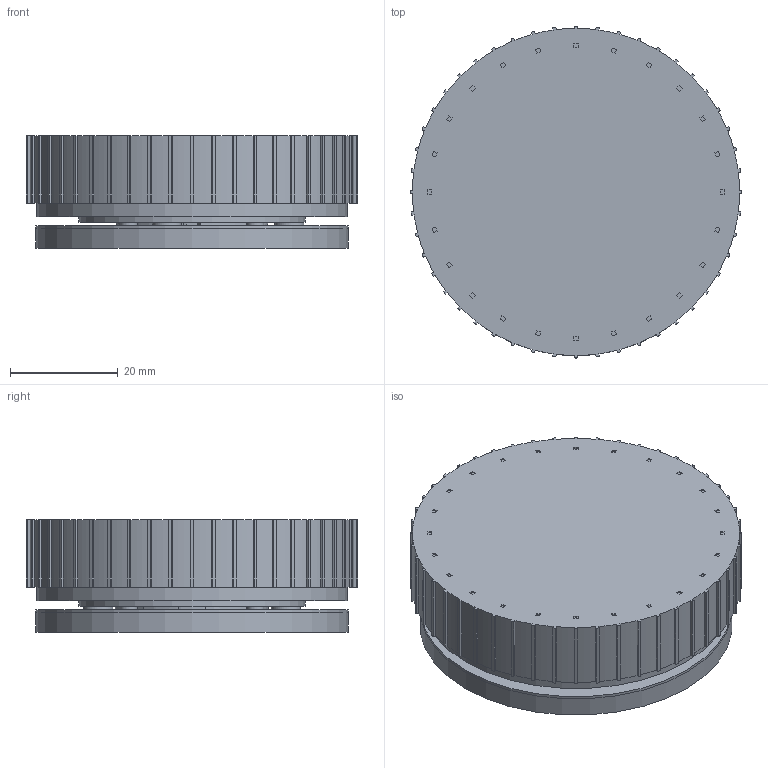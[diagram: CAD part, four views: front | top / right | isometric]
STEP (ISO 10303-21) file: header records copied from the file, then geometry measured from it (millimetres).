
FILE_DESCRIPTION(('Open CASCADE Model'),'2;1');
FILE_NAME('Open CASCADE Shape Model','2026-11-13T05:00:18',('Author'),( 'Open CASCADE'),'Open CASCADE STEP processor 7.9','Open CASCADE 7.9' ,'Unknown');
FILE_SCHEMA(('AUTOMOTIVE_DESIGN { 1 0 10303 214 1 1 1 1 }'));
Length unit declared in the file: millimetre
Products named in the file (55): V3_Assembled; PCB; Cell; PCB_Fasteners; Electronic_U1; Electronic_BT1; Electronic_C4; Electronic_C9; Electronic_C15; Electronic_C5; Electronic_C8; Electronic_C10; Electronic_C16; Electronic_C18; Electronic_J_DEBUG; Electronic_R4; Electronic_U2; Electronic_C6; Electronic_R1; Electronic_R2; Electronic_R3; Electronic_X1; Electronic_C1; Electronic_C2; Electronic_X2; Electronic_C11; Electronic_C12; Electronic_L1; Electronic_L2; Electronic_C3; Electronic_ANT1; Bearing_6808; Magnet; Cap_circular; Base_V3_Discs; Attachment_Disc_01; Attachment_Disc_02; Attachment_Disc_03; Attachment_Disc_04; Attachment_Disc_05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
Assembly tree (54 placements, depth 2):
  V3_Assembled
    PCB
    Cell
    PCB_Fasteners
    Electronic_U1
    Electronic_BT1
    Electronic_C4
    Electronic_C9
    Electronic_C15
    Electronic_C5
    Electronic_C8
    Electronic_C10
    Electronic_C16
    Electronic_C18
    Electronic_J_DEBUG
    Electronic_R4
    Electronic_U2
    Electronic_C6
    Electronic_R1
    Electronic_R2
    Electronic_R3
    Electronic_X1
    Electronic_C1
    Electronic_C2
    Electronic_X2
    Electronic_C11
    Electronic_C12
    Electronic_L1
    Electronic_L2
    Electronic_C3
    Electronic_ANT1
    Bearing_6808
    Magnet
    Cap_circular
    Base_V3_Discs
    Attachment_Disc_01
    Attachment_Disc_02
    Attachment_Disc_03
    Attachment_Disc_04
    Attachment_Disc_05
    Attachment_Disc_06
    Attachment_Disc_07
    Attachment_Disc_08
    Attachment_Disc_09
    Attachment_Disc_10
    Attachment_Disc_11
    Attachment_Disc_12
    Attachment_Disc_13
    Attachment_Disc_14
    Attachment_Disc_15
    Attachment_Disc_16
    Attachment_Disc_17
    Attachment_Disc_18
    Attachment_Disc_19
    Attachment_Disc_20
Bounding box: 61.6 x 61.6 x 20.9 mm (x, y, z)
Volume: 33159.3 mm3; surface area: 43495.9 mm2
Topology: 254 solids, 254 shells, 11460 faces, 30205 edges, 19749 vertices
Faces by surface type: plane 6676, bspline 2964, cylinder 1453, sphere 211, extrusion 76, torus 48, cone 32
Full cylindrical faces by diameter (mm): 0.36 x21, 1.6 x4, 1.96 x18, 2.2 x4, 3.2 x4, 3.8 x2, 5 x7, 5.4 x3, 6 x21, 6.4 x20, 22.2 x2, 23.2 x1, 23.3 x1, 24.5 x1, 36.5 x1, 37.3 x1, 40 x1, 40.05 x1, 41.4 x1, 42 x1, 43.9 x2, 43.96 x2, 44.2 x2, 48.04 x2, 48.1 x2, 50 x1, 50.7 x4, 51.4 x2, 51.46 x2, 51.95 x1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
Entity records: 836793 total; most frequent: CARTESIAN_POINT 276467, DIRECTION 86212, VECTOR 62477, LINE 62401, ORIENTED_EDGE 59988, PCURVE 59988, DEFINITIONAL_REPRESENTATION 59988, EDGE_CURVE 29994
